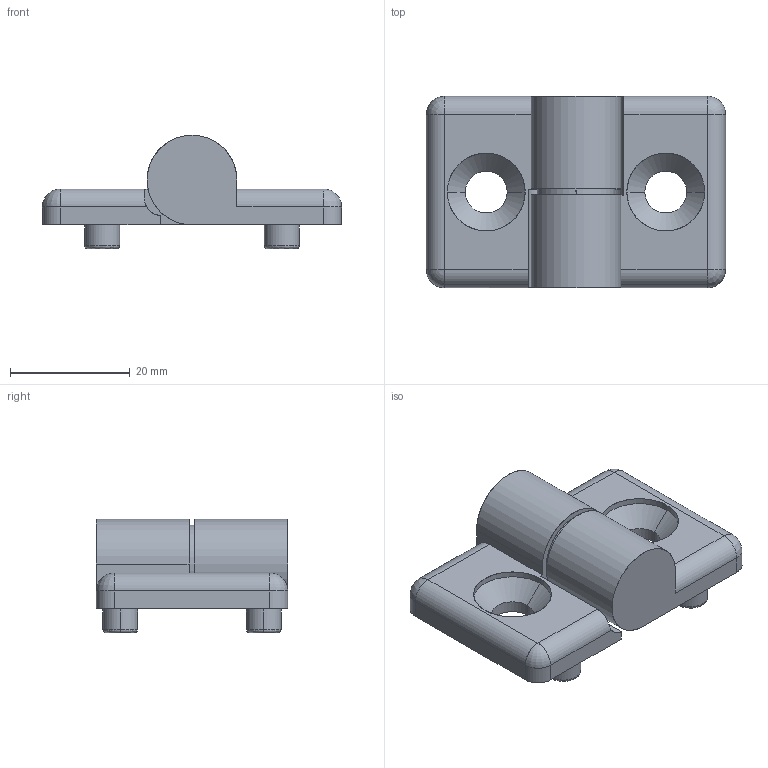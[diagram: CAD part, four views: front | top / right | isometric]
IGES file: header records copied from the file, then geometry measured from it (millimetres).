
Start section: SolidWorks IGES file using analytic representation for surfaces
Global section: file name: C:\Users\admin\Desktop\IGES\J3PR.igs; native system: SolidWorks 2014; preprocessor: SolidWorks 2014; author: admin_pc; date: 170524.165937; units: millimetre
Bounding box: 50 x 32 x 19 mm (x, y, z)
Surface area: 7256.5 mm2 (no closed solid volume)
Topology: 0 solids, 0 shells, 100 faces, 1528 edges, 1526 vertices
Faces by surface type: revolution 60, bspline 40
